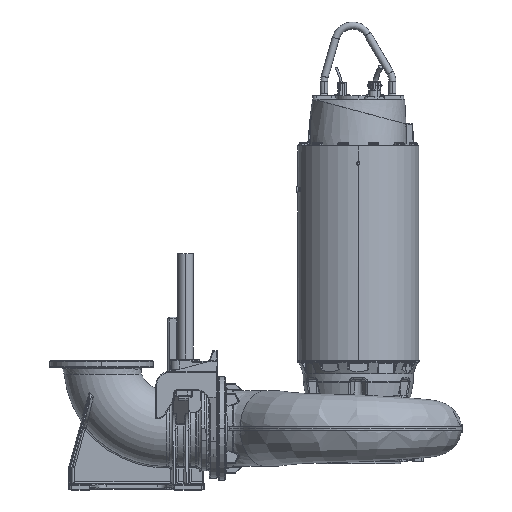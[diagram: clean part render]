
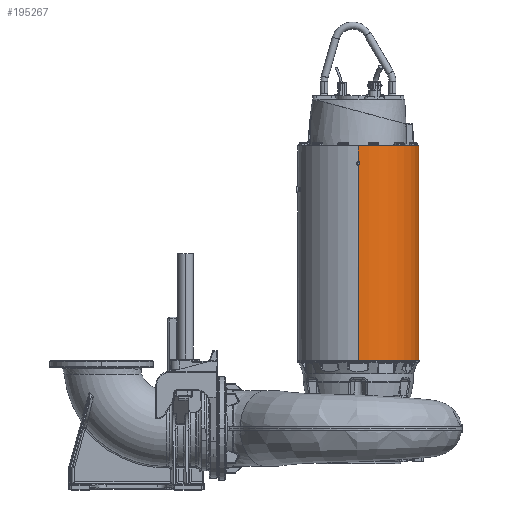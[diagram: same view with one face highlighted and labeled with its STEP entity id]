
A CAD part, top view. The second image highlights one B-rep face of the part: STEP entity #195267.
In plain terms, the highlighted cylindrical face has radius 344 mm (diameter 688 mm), a partial arc.
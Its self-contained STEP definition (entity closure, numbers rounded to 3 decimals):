
#1440 = DIRECTION ( 'NONE',  ( 1., 0., 0. ) ) ;
#4662 = EDGE_CURVE ( 'NONE', #123888, #276683, #63525, .T. ) ;
#5095 = ORIENTED_EDGE ( 'NONE', *, *, #93484, .T. ) ;
#7698 = EDGE_CURVE ( 'NONE', #167955, #27945, #79923, .T. ) ;
#9953 = AXIS2_PLACEMENT_3D ( 'NONE', #278498, #140380, #1440 ) ;
#10127 = LINE ( 'NONE', #116223, #133437 ) ;
#14089 = CARTESIAN_POINT ( 'NONE',  ( 0., 1115.97, 344. ) ) ;
#15174 = CIRCLE ( 'NONE', #9953, 344. ) ;
#18252 = CARTESIAN_POINT ( 'NONE',  ( 9.5, 1110.485, 343.869 ) ) ;
#19602 = DIRECTION ( 'NONE',  ( 0., -1., 0. ) ) ;
#19733 = DIRECTION ( 'NONE',  ( 0., -1., 0. ) ) ;
#22950 = DIRECTION ( 'NONE',  ( 0., -1., 0. ) ) ;
#25412 = EDGE_LOOP ( 'NONE', ( #46147, #158345, #208778, #143605, #56028, #5095, #290759, #124649, #175174, #85507, #26987, #261699 ) ) ;
#26987 = ORIENTED_EDGE ( 'NONE', *, *, #155095, .F. ) ;
#27945 = VERTEX_POINT ( 'NONE', #296677 ) ;
#35613 = DIRECTION ( 'NONE',  ( 0., -1., 0. ) ) ;
#37368 = VECTOR ( 'NONE', #107038, 1000. ) ;
#40917 = DIRECTION ( 'NONE',  ( 0., 0., -1. ) ) ;
#41895 = DIRECTION ( 'NONE',  ( 0., -1., 0. ) ) ;
#42911 = CARTESIAN_POINT ( 'NONE',  ( 0., 1205., 0. ) ) ;
#43481 = CARTESIAN_POINT ( 'NONE',  ( 6.334, 1112.313, 343.956 ) ) ;
#46147 = ORIENTED_EDGE ( 'NONE', *, *, #4662, .T. ) ;
#49460 = VERTEX_POINT ( 'NONE', #289685 ) ;
#53008 = EDGE_CURVE ( 'NONE', #276683, #278157, #210990, .T. ) ;
#53866 = CARTESIAN_POINT ( 'NONE',  ( 3.167, 1095.859, 344. ) ) ;
#53940 = CARTESIAN_POINT ( 'NONE',  ( 6.334, 1112.313, -343.956 ) ) ;
#56028 = ORIENTED_EDGE ( 'NONE', *, *, #283086, .T. ) ;
#58112 =( BOUNDED_CURVE ( )  B_SPLINE_CURVE ( 3, ( #169348, #190588, #53866, #215723 ),
 .UNSPECIFIED., .F., .F. ) 
 B_SPLINE_CURVE_WITH_KNOTS ( ( 4, 4 ),
 ( 1.543, 1.571 ),
 .UNSPECIFIED. ) 
 CURVE ( )  GEOMETRIC_REPRESENTATION_ITEM ( )  RATIONAL_B_SPLINE_CURVE ( ( 1., 1., 1., 1. ) ) 
 REPRESENTATION_ITEM ( '' )  );
#60950 = CARTESIAN_POINT ( 'NONE',  ( 9.5, 1110.485, -343.869 ) ) ;
#63525 = CIRCLE ( 'NONE', #291750, 344. ) ;
#65297 = CARTESIAN_POINT ( 'NONE',  ( 0., 0., 344. ) ) ;
#66182 = CARTESIAN_POINT ( 'NONE',  ( 0., 0., -344. ) ) ;
#69192 = CARTESIAN_POINT ( 'NONE',  ( 9.5, 1110.485, -343.869 ) ) ;
#74748 = CARTESIAN_POINT ( 'NONE',  ( 0., 1115.97, -344. ) ) ;
#77292 = LINE ( 'NONE', #184554, #131595 ) ;
#77741 =( BOUNDED_CURVE ( )  B_SPLINE_CURVE ( 3, ( #199625, #176341, #53940, #60950 ),
 .UNSPECIFIED., .F., .F. ) 
 B_SPLINE_CURVE_WITH_KNOTS ( ( 4, 4 ),
 ( 1.571, 1.598 ),
 .UNSPECIFIED. ) 
 CURVE ( )  GEOMETRIC_REPRESENTATION_ITEM ( )  RATIONAL_B_SPLINE_CURVE ( ( 1., 1., 1., 1. ) ) 
 REPRESENTATION_ITEM ( '' )  );
#79923 =( BOUNDED_CURVE ( )  B_SPLINE_CURVE ( 3, ( #183111, #204749, #185462, #83067 ),
 .UNSPECIFIED., .F., .T. ) 
 B_SPLINE_CURVE_WITH_KNOTS ( ( 4, 4 ),
 ( 1.543, 1.571 ),
 .UNSPECIFIED. ) 
 CURVE ( )  GEOMETRIC_REPRESENTATION_ITEM ( )  RATIONAL_B_SPLINE_CURVE ( ( 1., 1., 1., 1. ) ) 
 REPRESENTATION_ITEM ( '' )  );
#83067 = CARTESIAN_POINT ( 'NONE',  ( 0., 1094.03, -344. ) ) ;
#83772 = CARTESIAN_POINT ( 'NONE',  ( 9.5, 1345.349, 343.869 ) ) ;
#85507 = ORIENTED_EDGE ( 'NONE', *, *, #149378, .F. ) ;
#93484 = EDGE_CURVE ( 'NONE', #201636, #49460, #77292, .T. ) ;
#101247 = VERTEX_POINT ( 'NONE', #121396 ) ;
#101670 = VECTOR ( 'NONE', #19602, 1000. ) ;
#107038 = DIRECTION ( 'NONE',  ( 0., -1., 0. ) ) ;
#111901 = CARTESIAN_POINT ( 'NONE',  ( 0., 1205., 344. ) ) ;
#114246 = CYLINDRICAL_SURFACE ( 'NONE', #193712, 344. ) ;
#114357 = DIRECTION ( 'NONE',  ( 0., -1., 0. ) ) ;
#116223 = CARTESIAN_POINT ( 'NONE',  ( 9.5, 1345.349, -343.869 ) ) ;
#119494 = DIRECTION ( 'NONE',  ( 0., 0., -1. ) ) ;
#120938 = EDGE_CURVE ( 'NONE', #278157, #292263, #266409, .T. ) ;
#121396 = CARTESIAN_POINT ( 'NONE',  ( 0., -20., -344. ) ) ;
#123888 = VERTEX_POINT ( 'NONE', #183000 ) ;
#124649 = ORIENTED_EDGE ( 'NONE', *, *, #240316, .F. ) ;
#131595 = VECTOR ( 'NONE', #229913, 1000. ) ;
#133437 = VECTOR ( 'NONE', #22950, 1000. ) ;
#140380 = DIRECTION ( 'NONE',  ( 0., -1., 0. ) ) ;
#143605 = ORIENTED_EDGE ( 'NONE', *, *, #215620, .T. ) ;
#148287 = CARTESIAN_POINT ( 'NONE',  ( 9.5, 1099.515, -343.869 ) ) ;
#149378 = EDGE_CURVE ( 'NONE', #288029, #167955, #10127, .T. ) ;
#155095 = EDGE_CURVE ( 'NONE', #226772, #288029, #77741, .T. ) ;
#157020 = CARTESIAN_POINT ( 'NONE',  ( 0., 1115.97, 344. ) ) ;
#158345 = ORIENTED_EDGE ( 'NONE', *, *, #53008, .T. ) ;
#158747 = CARTESIAN_POINT ( 'NONE',  ( 0., 1094.03, 344. ) ) ;
#166442 = CARTESIAN_POINT ( 'NONE',  ( 9.5, 1099.515, 343.869 ) ) ;
#167955 = VERTEX_POINT ( 'NONE', #148287 ) ;
#169348 = CARTESIAN_POINT ( 'NONE',  ( 9.5, 1099.515, 343.869 ) ) ;
#175174 = ORIENTED_EDGE ( 'NONE', *, *, #7698, .F. ) ;
#176341 = CARTESIAN_POINT ( 'NONE',  ( 3.167, 1114.141, -344. ) ) ;
#183000 = CARTESIAN_POINT ( 'NONE',  ( 0., 1205., -344. ) ) ;
#183111 = CARTESIAN_POINT ( 'NONE',  ( 9.5, 1099.515, -343.869 ) ) ;
#184554 = CARTESIAN_POINT ( 'NONE',  ( 0., 0., 344. ) ) ;
#185462 = CARTESIAN_POINT ( 'NONE',  ( 3.167, 1095.859, -344. ) ) ;
#190588 = CARTESIAN_POINT ( 'NONE',  ( 6.334, 1097.687, 343.956 ) ) ;
#193712 = AXIS2_PLACEMENT_3D ( 'NONE', #257741, #114357, #119494 ) ;
#195267 = ADVANCED_FACE ( 'NONE', ( #204793 ), #114246, .T. ) ;
#197666 = CARTESIAN_POINT ( 'NONE',  ( 0., 0., -344. ) ) ;
#199625 = CARTESIAN_POINT ( 'NONE',  ( 0., 1115.97, -344. ) ) ;
#201636 = VERTEX_POINT ( 'NONE', #158747 ) ;
#203741 = VECTOR ( 'NONE', #19733, 1000. ) ;
#204491 = CARTESIAN_POINT ( 'NONE',  ( 3.167, 1114.141, 344. ) ) ;
#204749 = CARTESIAN_POINT ( 'NONE',  ( 6.334, 1097.687, -343.956 ) ) ;
#204793 = FACE_OUTER_BOUND ( 'NONE', #25412, .T. ) ;
#205475 = CARTESIAN_POINT ( 'NONE',  ( 9.5, 1110.485, 343.869 ) ) ;
#208778 = ORIENTED_EDGE ( 'NONE', *, *, #120938, .T. ) ;
#208863 = VERTEX_POINT ( 'NONE', #166442 ) ;
#210990 = LINE ( 'NONE', #65297, #203741 ) ;
#215620 = EDGE_CURVE ( 'NONE', #292263, #208863, #283246, .T. ) ;
#215723 = CARTESIAN_POINT ( 'NONE',  ( 0., 1094.03, 344. ) ) ;
#217327 = LINE ( 'NONE', #66182, #101670 ) ;
#219156 = EDGE_CURVE ( 'NONE', #101247, #49460, #15174, .T. ) ;
#219659 = LINE ( 'NONE', #197666, #280903 ) ;
#226772 = VERTEX_POINT ( 'NONE', #74748 ) ;
#229913 = DIRECTION ( 'NONE',  ( 0., -1., 0. ) ) ;
#240316 = EDGE_CURVE ( 'NONE', #27945, #101247, #217327, .T. ) ;
#255411 = EDGE_CURVE ( 'NONE', #123888, #226772, #219659, .T. ) ;
#257741 = CARTESIAN_POINT ( 'NONE',  ( 0., 0., 0. ) ) ;
#261699 = ORIENTED_EDGE ( 'NONE', *, *, #255411, .F. ) ;
#266409 =( BOUNDED_CURVE ( )  B_SPLINE_CURVE ( 3, ( #157020, #204491, #43481, #205475 ),
 .UNSPECIFIED., .F., .T. ) 
 B_SPLINE_CURVE_WITH_KNOTS ( ( 4, 4 ),
 ( 1.571, 1.598 ),
 .UNSPECIFIED. ) 
 CURVE ( )  GEOMETRIC_REPRESENTATION_ITEM ( )  RATIONAL_B_SPLINE_CURVE ( ( 1., 1., 1., 1. ) ) 
 REPRESENTATION_ITEM ( '' )  );
#276683 = VERTEX_POINT ( 'NONE', #111901 ) ;
#278157 = VERTEX_POINT ( 'NONE', #14089 ) ;
#278498 = CARTESIAN_POINT ( 'NONE',  ( 0., -20., 0. ) ) ;
#280903 = VECTOR ( 'NONE', #35613, 1000. ) ;
#283086 = EDGE_CURVE ( 'NONE', #208863, #201636, #58112, .T. ) ;
#283246 = LINE ( 'NONE', #83772, #37368 ) ;
#288029 = VERTEX_POINT ( 'NONE', #69192 ) ;
#289685 = CARTESIAN_POINT ( 'NONE',  ( 0., -20., 344. ) ) ;
#290759 = ORIENTED_EDGE ( 'NONE', *, *, #219156, .F. ) ;
#291750 = AXIS2_PLACEMENT_3D ( 'NONE', #42911, #41895, #40917 ) ;
#292263 = VERTEX_POINT ( 'NONE', #18252 ) ;
#296677 = CARTESIAN_POINT ( 'NONE',  ( 0., 1094.03, -344. ) ) ;
